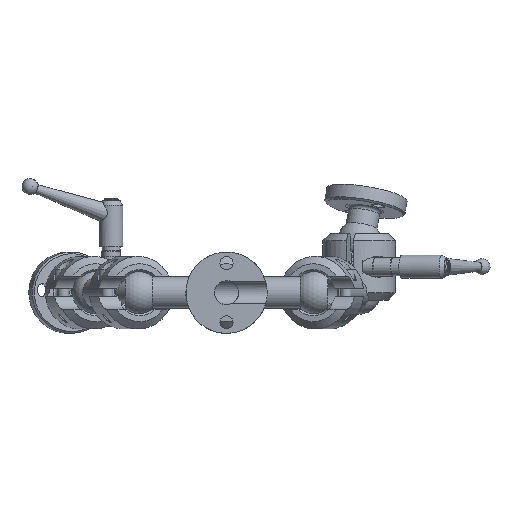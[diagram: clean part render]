
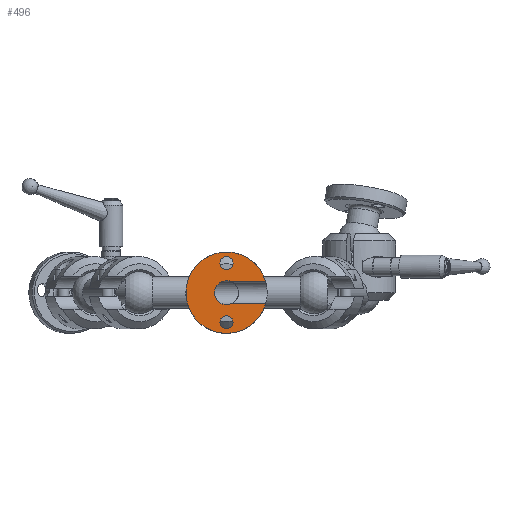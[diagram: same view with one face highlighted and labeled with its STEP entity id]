
A CAD part, left-side view. The second image highlights one B-rep face of the part: STEP entity #496.
In plain terms, the highlighted planar face has unit normal (-1, 0, 0).
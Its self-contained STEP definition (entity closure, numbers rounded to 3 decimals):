
#496 = ADVANCED_FACE( '', ( #917, #918, #919 ), #920, .T. );
#917 = FACE_BOUND( '', #1383, .T. );
#918 = FACE_BOUND( '', #1384, .T. );
#919 = FACE_OUTER_BOUND( '', #1385, .T. );
#920 = PLANE( '', #1386 );
#1383 = EDGE_LOOP( '', ( #4089 ) );
#1384 = EDGE_LOOP( '', ( #4090 ) );
#1385 = EDGE_LOOP( '', ( #4091, #4092, #4093, #4094 ) );
#1386 = AXIS2_PLACEMENT_3D( '', #4095, #4096, #4097 );
#4089 = ORIENTED_EDGE( '', *, *, #5278, .F. );
#4090 = ORIENTED_EDGE( '', *, *, #5279, .F. );
#4091 = ORIENTED_EDGE( '', *, *, #5027, .F. );
#4092 = ORIENTED_EDGE( '', *, *, #5248, .T. );
#4093 = ORIENTED_EDGE( '', *, *, #5051, .T. );
#4094 = ORIENTED_EDGE( '', *, *, #5249, .T. );
#4095 = CARTESIAN_POINT( '', ( -20.638, 0., 0. ) );
#4096 = DIRECTION( '', ( -1., 0., 0. ) );
#4097 = DIRECTION( '', ( 0., 0., 1. ) );
#5027 = EDGE_CURVE( '', #5608, #5609, #5611, .T. );
#5051 = EDGE_CURVE( '', #5650, #5651, #5652, .T. );
#5248 = EDGE_CURVE( '', #5608, #5650, #6013, .F. );
#5249 = EDGE_CURVE( '', #5651, #5609, #6014, .T. );
#5278 = EDGE_CURVE( '', #6059, #6059, #6060, .T. );
#5279 = EDGE_CURVE( '', #6061, #6061, #6062, .T. );
#5608 = VERTEX_POINT( '', #6723 );
#5609 = VERTEX_POINT( '', #6724 );
#5611 = CIRCLE( '', #6767, 5.159 );
#5650 = VERTEX_POINT( '', #6855 );
#5651 = VERTEX_POINT( '', #6856 );
#5652 = CIRCLE( '', #6857, 17.463 );
#6013 = LINE( '', #9292, #9293 );
#6014 = LINE( '', #9294, #9295 );
#6059 = VERTEX_POINT( '', #9356 );
#6060 = CIRCLE( '', #9357, 2.807 );
#6061 = VERTEX_POINT( '', #9358 );
#6062 = CIRCLE( '', #9359, 2.807 );
#6723 = CARTESIAN_POINT( '', ( -20.638, -1.984, 4.763 ) );
#6724 = CARTESIAN_POINT( '', ( -20.638, -1.984, -4.763 ) );
#6767 = AXIS2_PLACEMENT_3D( '', #11541, #11542, #11543 );
#6855 = CARTESIAN_POINT( '', ( -20.638, -16.801, 4.763 ) );
#6856 = CARTESIAN_POINT( '', ( -20.638, -16.801, -4.763 ) );
#6857 = AXIS2_PLACEMENT_3D( '', #11585, #11586, #11587 );
#9292 = CARTESIAN_POINT( '', ( -20.638, -58.716, 4.763 ) );
#9293 = VECTOR( '', #11704, 1000. );
#9294 = CARTESIAN_POINT( '', ( -20.638, -58.716, -4.763 ) );
#9295 = VECTOR( '', #11705, 1000. );
#9356 = CARTESIAN_POINT( '', ( -20.638, 0., 15.507 ) );
#9357 = AXIS2_PLACEMENT_3D( '', #11743, #11744, #11745 );
#9358 = CARTESIAN_POINT( '', ( -20.638, 0., -9.893 ) );
#9359 = AXIS2_PLACEMENT_3D( '', #11746, #11747, #11748 );
#11541 = CARTESIAN_POINT( '', ( -20.638, 0., 0. ) );
#11542 = DIRECTION( '', ( -1., 0., 0. ) );
#11543 = DIRECTION( '', ( 0., 0., 1. ) );
#11585 = CARTESIAN_POINT( '', ( -20.638, 0., 0. ) );
#11586 = DIRECTION( '', ( -1., 0., 0. ) );
#11587 = DIRECTION( '', ( 0., 0., 1. ) );
#11704 = DIRECTION( '', ( 0., 1., 0. ) );
#11705 = DIRECTION( '', ( 0., 1., 0. ) );
#11743 = CARTESIAN_POINT( '', ( -20.638, 0., 12.7 ) );
#11744 = DIRECTION( '', ( -1., 0., 0. ) );
#11745 = DIRECTION( '', ( 0., 0., 1. ) );
#11746 = CARTESIAN_POINT( '', ( -20.638, 0., -12.7 ) );
#11747 = DIRECTION( '', ( -1., 0., 0. ) );
#11748 = DIRECTION( '', ( 0., 0., 1. ) );
